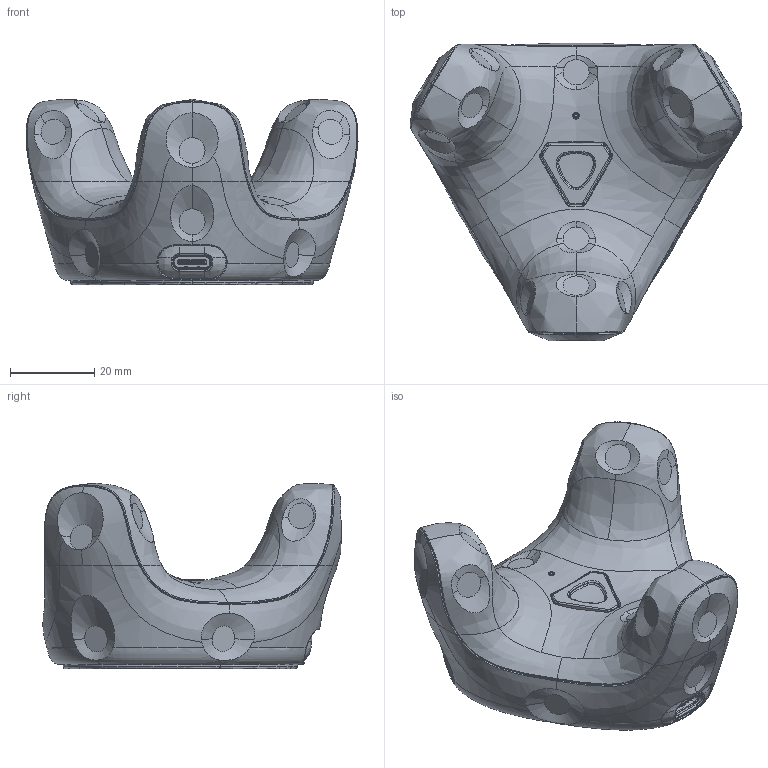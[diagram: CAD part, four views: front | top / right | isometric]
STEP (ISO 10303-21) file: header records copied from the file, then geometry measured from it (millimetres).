
FILE_DESCRIPTION(('Creo Elements/Direct Modeling STEP Export'),'2;1');
FILE_NAME('VIVE_Tracker_3.0_3D.stp','2021-02-25T11:44:37',(''),(''),'Creo Elements/Direct Modeling STEP processor for AP214 (Solid Model)','Creo Elements/Direct Modeling 20.3B 05-Dec-2020 (C) Parametric Technology GmbH','');
FILE_SCHEMA(('AUTOMOTIVE_DESIGN { 1 0 10303 214 1 1 1 1 }'));
Products named in the file (1): VIVE_Tracker_3.0_3D
Bounding box: 78.98 x 70.93 x 44.11 mm (x, y, z)
Volume: 92263.7 mm3; surface area: 19994.8 mm2
Topology: 1 solids, 1 shells, 1417 faces, 3701 edges, 2320 vertices
Faces by surface type: plane 638, cylinder 337, bspline 301, torus 44, cone 42, sphere 32, extrusion 23
Entity records: 343909 total; most frequent: CARTESIAN_POINT 305128, ORIENTED_EDGE 7338, DIRECTION 5430, EDGE_CURVE 3669, VERTEX_POINT 2320, VECTOR 1948, LINE 1925, AXIS2_PLACEMENT_3D 1741
